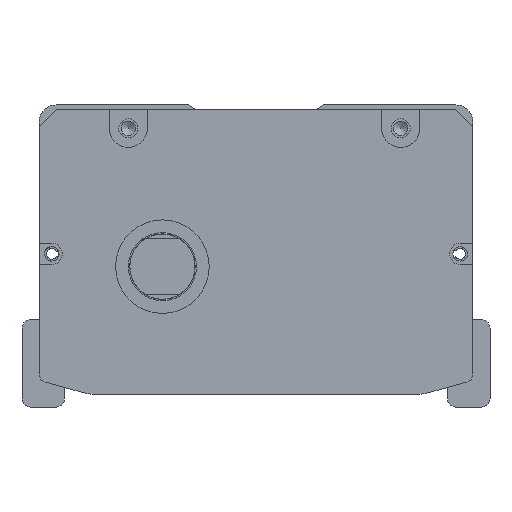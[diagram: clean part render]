
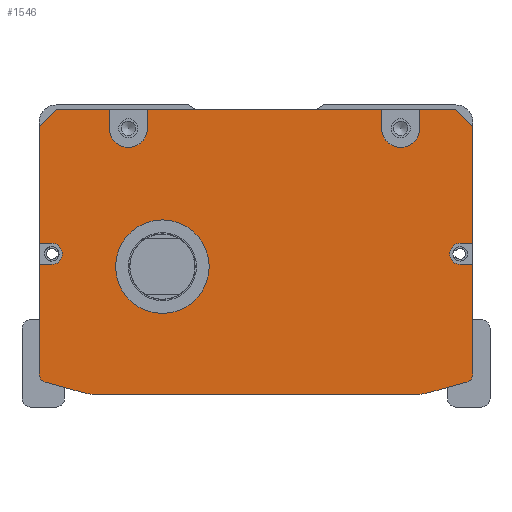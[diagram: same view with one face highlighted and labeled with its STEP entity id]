
A CAD part, front view. The second image highlights one B-rep face of the part: STEP entity #1546.
In plain terms, the highlighted planar face has unit normal (0, -1, 0).
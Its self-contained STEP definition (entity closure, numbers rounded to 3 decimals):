
#942=FACE_BOUND('',#2956,.T.);
#943=FACE_BOUND('',#2957,.T.);
#1546=ADVANCED_FACE('',(#942,#943),#2127,.F.);
#2127=PLANE('',#11599);
#2956=EDGE_LOOP('',(#5245,#5246,#5247,#5248,#5249,#5250,#5251,#5252,#5253,
#5254,#5255,#5256,#5257,#5258,#5259,#5260,#5261,#5262,#5263,#5264,#5265,
#5266,#5267,#5268,#5269,#5270,#5271,#5272));
#2957=EDGE_LOOP('',(#5273));
#3863=CIRCLE('',#11590,4.5);
#3864=CIRCLE('',#11591,4.5);
#3865=CIRCLE('',#11592,2.5);
#3866=CIRCLE('',#11593,2.);
#3867=CIRCLE('',#11594,10.);
#3868=CIRCLE('',#11595,10.);
#3869=CIRCLE('',#11596,2.);
#3870=CIRCLE('',#11597,2.5);
#3871=CIRCLE('',#11598,11.);
#5245=ORIENTED_EDGE('',*,*,#8494,.T.);
#5246=ORIENTED_EDGE('',*,*,#8922,.T.);
#5247=ORIENTED_EDGE('',*,*,#8923,.T.);
#5248=ORIENTED_EDGE('',*,*,#8924,.F.);
#5249=ORIENTED_EDGE('',*,*,#8925,.T.);
#5250=ORIENTED_EDGE('',*,*,#8926,.F.);
#5251=ORIENTED_EDGE('',*,*,#8927,.T.);
#5252=ORIENTED_EDGE('',*,*,#8928,.F.);
#5253=ORIENTED_EDGE('',*,*,#8929,.T.);
#5254=ORIENTED_EDGE('',*,*,#8930,.F.);
#5255=ORIENTED_EDGE('',*,*,#8931,.T.);
#5256=ORIENTED_EDGE('',*,*,#8932,.T.);
#5257=ORIENTED_EDGE('',*,*,#8526,.T.);
#5258=ORIENTED_EDGE('',*,*,#8933,.T.);
#5259=ORIENTED_EDGE('',*,*,#8934,.T.);
#5260=ORIENTED_EDGE('',*,*,#8935,.T.);
#5261=ORIENTED_EDGE('',*,*,#8522,.T.);
#5262=ORIENTED_EDGE('',*,*,#8936,.T.);
#5263=ORIENTED_EDGE('',*,*,#8937,.T.);
#5264=ORIENTED_EDGE('',*,*,#8938,.T.);
#5265=ORIENTED_EDGE('',*,*,#8939,.T.);
#5266=ORIENTED_EDGE('',*,*,#8940,.T.);
#5267=ORIENTED_EDGE('',*,*,#8941,.T.);
#5268=ORIENTED_EDGE('',*,*,#8942,.T.);
#5269=ORIENTED_EDGE('',*,*,#8498,.T.);
#5270=ORIENTED_EDGE('',*,*,#8943,.T.);
#5271=ORIENTED_EDGE('',*,*,#8944,.T.);
#5272=ORIENTED_EDGE('',*,*,#8945,.T.);
#5273=ORIENTED_EDGE('',*,*,#8946,.T.);
#7398=VERTEX_POINT('',#15914);
#7399=VERTEX_POINT('',#15916);
#7402=VERTEX_POINT('',#15922);
#7403=VERTEX_POINT('',#15924);
#7424=VERTEX_POINT('',#15969);
#7425=VERTEX_POINT('',#15971);
#7428=VERTEX_POINT('',#15977);
#7429=VERTEX_POINT('',#15979);
#7700=VERTEX_POINT('',#16794);
#7701=VERTEX_POINT('',#16796);
#7702=VERTEX_POINT('',#16798);
#7703=VERTEX_POINT('',#16800);
#7704=VERTEX_POINT('',#16802);
#7705=VERTEX_POINT('',#16804);
#7706=VERTEX_POINT('',#16806);
#7707=VERTEX_POINT('',#16808);
#7708=VERTEX_POINT('',#16810);
#7709=VERTEX_POINT('',#16812);
#7710=VERTEX_POINT('',#16815);
#7711=VERTEX_POINT('',#16817);
#7712=VERTEX_POINT('',#16820);
#7713=VERTEX_POINT('',#16822);
#7714=VERTEX_POINT('',#16824);
#7715=VERTEX_POINT('',#16826);
#7716=VERTEX_POINT('',#16828);
#7717=VERTEX_POINT('',#16830);
#7718=VERTEX_POINT('',#16833);
#7719=VERTEX_POINT('',#16835);
#7720=VERTEX_POINT('',#16838);
#8494=EDGE_CURVE('',#7399,#7398,#9933,.T.);
#8498=EDGE_CURVE('',#7403,#7402,#9937,.T.);
#8522=EDGE_CURVE('',#7425,#7424,#9961,.T.);
#8526=EDGE_CURVE('',#7429,#7428,#9965,.T.);
#8922=EDGE_CURVE('',#7398,#7700,#10206,.T.);
#8923=EDGE_CURVE('',#7700,#7701,#10207,.T.);
#8924=EDGE_CURVE('',#7702,#7701,#10208,.T.);
#8925=EDGE_CURVE('',#7702,#7703,#3863,.T.);
#8926=EDGE_CURVE('',#7704,#7703,#10209,.T.);
#8927=EDGE_CURVE('',#7704,#7705,#10210,.T.);
#8928=EDGE_CURVE('',#7706,#7705,#10211,.T.);
#8929=EDGE_CURVE('',#7706,#7707,#3864,.T.);
#8930=EDGE_CURVE('',#7708,#7707,#10212,.T.);
#8931=EDGE_CURVE('',#7708,#7709,#10213,.T.);
#8932=EDGE_CURVE('',#7709,#7429,#10214,.T.);
#8933=EDGE_CURVE('',#7428,#7710,#10215,.T.);
#8934=EDGE_CURVE('',#7710,#7711,#3865,.T.);
#8935=EDGE_CURVE('',#7711,#7425,#10216,.T.);
#8936=EDGE_CURVE('',#7424,#7712,#3866,.T.);
#8937=EDGE_CURVE('',#7712,#7713,#10217,.T.);
#8938=EDGE_CURVE('',#7713,#7714,#3867,.T.);
#8939=EDGE_CURVE('',#7714,#7715,#10218,.T.);
#8940=EDGE_CURVE('',#7715,#7716,#3868,.T.);
#8941=EDGE_CURVE('',#7716,#7717,#10219,.T.);
#8942=EDGE_CURVE('',#7717,#7403,#3869,.T.);
#8943=EDGE_CURVE('',#7402,#7718,#10220,.T.);
#8944=EDGE_CURVE('',#7718,#7719,#3870,.T.);
#8945=EDGE_CURVE('',#7719,#7399,#10221,.T.);
#8946=EDGE_CURVE('',#7720,#7720,#3871,.T.);
#9933=LINE('',#15915,#10590);
#9937=LINE('',#15923,#10594);
#9961=LINE('',#15970,#10618);
#9965=LINE('',#15978,#10622);
#10206=LINE('',#16793,#10863);
#10207=LINE('',#16795,#10864);
#10208=LINE('',#16797,#10865);
#10209=LINE('',#16801,#10866);
#10210=LINE('',#16803,#10867);
#10211=LINE('',#16805,#10868);
#10212=LINE('',#16809,#10869);
#10213=LINE('',#16811,#10870);
#10214=LINE('',#16813,#10871);
#10215=LINE('',#16814,#10872);
#10216=LINE('',#16818,#10873);
#10217=LINE('',#16821,#10874);
#10218=LINE('',#16825,#10875);
#10219=LINE('',#16829,#10876);
#10220=LINE('',#16832,#10877);
#10221=LINE('',#16836,#10878);
#10590=VECTOR('',#12706,1.);
#10594=VECTOR('',#12710,1.);
#10618=VECTOR('',#12736,1.);
#10622=VECTOR('',#12740,1.);
#10863=VECTOR('',#13587,1.);
#10864=VECTOR('',#13588,1.);
#10865=VECTOR('',#13589,1.);
#10866=VECTOR('',#13592,1.);
#10867=VECTOR('',#13593,1.);
#10868=VECTOR('',#13594,1.);
#10869=VECTOR('',#13597,1.);
#10870=VECTOR('',#13598,1.);
#10871=VECTOR('',#13599,1.);
#10872=VECTOR('',#13600,1.);
#10873=VECTOR('',#13603,1.);
#10874=VECTOR('',#13606,1.);
#10875=VECTOR('',#13609,1.);
#10876=VECTOR('',#13612,1.);
#10877=VECTOR('',#13615,1.);
#10878=VECTOR('',#13618,1.);
#11590=AXIS2_PLACEMENT_3D('',#16799,#13590,#13591);
#11591=AXIS2_PLACEMENT_3D('',#16807,#13595,#13596);
#11592=AXIS2_PLACEMENT_3D('',#16816,#13601,#13602);
#11593=AXIS2_PLACEMENT_3D('',#16819,#13604,#13605);
#11594=AXIS2_PLACEMENT_3D('',#16823,#13607,#13608);
#11595=AXIS2_PLACEMENT_3D('',#16827,#13610,#13611);
#11596=AXIS2_PLACEMENT_3D('',#16831,#13613,#13614);
#11597=AXIS2_PLACEMENT_3D('',#16834,#13616,#13617);
#11598=AXIS2_PLACEMENT_3D('',#16837,#13619,#13620);
#11599=AXIS2_PLACEMENT_3D('',#16839,#13621,#13622);
#12706=DIRECTION('',(0.,0.,1.));
#12710=DIRECTION('',(0.,0.,1.));
#12736=DIRECTION('',(0.,0.,-1.));
#12740=DIRECTION('',(0.,0.,-1.));
#13587=DIRECTION('',(-0.707,0.,0.707));
#13588=DIRECTION('',(-1.,0.,0.));
#13589=DIRECTION('',(0.,0.,1.));
#13590=DIRECTION('',(0.,1.,0.));
#13591=DIRECTION('',(0.,0.,1.));
#13592=DIRECTION('',(0.,0.,-1.));
#13593=DIRECTION('',(-1.,0.,0.));
#13594=DIRECTION('',(0.,0.,1.));
#13595=DIRECTION('',(0.,1.,0.));
#13596=DIRECTION('',(0.,0.,1.));
#13597=DIRECTION('',(0.,0.,-1.));
#13598=DIRECTION('',(-1.,0.,0.));
#13599=DIRECTION('',(-0.707,0.,-0.707));
#13600=DIRECTION('',(1.,0.,0.));
#13601=DIRECTION('',(0.,1.,0.));
#13602=DIRECTION('',(0.,0.,1.));
#13603=DIRECTION('',(-1.,0.,0.));
#13604=DIRECTION('',(0.,-1.,0.));
#13605=DIRECTION('',(0.,0.,1.));
#13606=DIRECTION('',(0.963,0.,-0.269));
#13607=DIRECTION('',(0.,-1.,0.));
#13608=DIRECTION('',(0.,0.,1.));
#13609=DIRECTION('',(1.,0.,0.));
#13610=DIRECTION('',(0.,-1.,0.));
#13611=DIRECTION('',(0.,0.,-1.));
#13612=DIRECTION('',(0.963,0.,0.269));
#13613=DIRECTION('',(0.,-1.,0.));
#13614=DIRECTION('',(0.,0.,-1.));
#13615=DIRECTION('',(-1.,0.,0.));
#13616=DIRECTION('',(0.,1.,0.));
#13617=DIRECTION('',(0.,0.,1.));
#13618=DIRECTION('',(1.,0.,0.));
#13619=DIRECTION('',(0.,1.,0.));
#13620=DIRECTION('',(0.,0.,1.));
#13621=DIRECTION('',(0.,1.,0.));
#13622=DIRECTION('',(1.,0.,0.));
#15914=CARTESIAN_POINT('',(47.808,-7.5,-5.));
#15915=CARTESIAN_POINT('',(47.808,-7.5,-1.));
#15916=CARTESIAN_POINT('',(47.808,-7.5,-32.5));
#15922=CARTESIAN_POINT('',(47.808,-7.5,-37.5));
#15923=CARTESIAN_POINT('',(47.808,-7.5,-1.));
#15924=CARTESIAN_POINT('',(47.808,-7.5,-63.212));
#15969=CARTESIAN_POINT('',(-54.192,-7.5,-63.212));
#15970=CARTESIAN_POINT('',(-54.192,-7.5,-62.));
#15971=CARTESIAN_POINT('',(-54.192,-7.5,-37.5));
#15977=CARTESIAN_POINT('',(-54.192,-7.5,-32.5));
#15978=CARTESIAN_POINT('',(-54.192,-7.5,-62.));
#15979=CARTESIAN_POINT('',(-54.192,-7.5,-5.));
#16793=CARTESIAN_POINT('',(43.808,-7.5,-1.));
#16794=CARTESIAN_POINT('',(43.808,-7.5,-1.));
#16795=CARTESIAN_POINT('',(-3.192,-7.5,-1.));
#16796=CARTESIAN_POINT('',(35.308,-7.5,-1.));
#16797=CARTESIAN_POINT('',(35.308,-7.5,-1.));
#16798=CARTESIAN_POINT('',(35.308,-7.5,-5.5));
#16799=CARTESIAN_POINT('',(30.808,-7.5,-5.5));
#16800=CARTESIAN_POINT('',(26.308,-7.5,-5.5));
#16801=CARTESIAN_POINT('',(26.308,-7.5,-1.));
#16802=CARTESIAN_POINT('',(26.308,-7.5,-1.));
#16803=CARTESIAN_POINT('',(-54.192,-7.5,-1.));
#16804=CARTESIAN_POINT('',(-28.692,-7.5,-1.));
#16805=CARTESIAN_POINT('',(-28.692,-7.5,-3.5));
#16806=CARTESIAN_POINT('',(-28.692,-7.5,-5.5));
#16807=CARTESIAN_POINT('',(-33.192,-7.5,-5.5));
#16808=CARTESIAN_POINT('',(-37.692,-7.5,-5.5));
#16809=CARTESIAN_POINT('',(-37.692,-7.5,-1.));
#16810=CARTESIAN_POINT('',(-37.692,-7.5,-1.));
#16811=CARTESIAN_POINT('',(-54.192,-7.5,-1.));
#16812=CARTESIAN_POINT('',(-50.192,-7.5,-1.));
#16813=CARTESIAN_POINT('',(-54.192,-7.5,-5.));
#16814=CARTESIAN_POINT('',(-3.192,-7.5,-32.5));
#16815=CARTESIAN_POINT('',(-51.192,-7.5,-32.5));
#16816=CARTESIAN_POINT('',(-51.192,-7.5,-35.));
#16817=CARTESIAN_POINT('',(-51.192,-7.5,-37.5));
#16818=CARTESIAN_POINT('',(-3.192,-7.5,-37.5));
#16819=CARTESIAN_POINT('',(-52.192,-7.5,-63.212));
#16820=CARTESIAN_POINT('',(-52.731,-7.5,-65.138));
#16821=CARTESIAN_POINT('',(-55.807,-7.5,-64.279));
#16822=CARTESIAN_POINT('',(-43.809,-7.5,-67.631));
#16823=CARTESIAN_POINT('',(-41.118,-7.5,-58.));
#16824=CARTESIAN_POINT('',(-41.118,-7.5,-68.));
#16825=CARTESIAN_POINT('',(-54.692,-7.5,-68.));
#16826=CARTESIAN_POINT('',(34.733,-7.5,-68.));
#16827=CARTESIAN_POINT('',(34.733,-7.5,-58.));
#16828=CARTESIAN_POINT('',(37.424,-7.5,-67.631));
#16829=CARTESIAN_POINT('',(49.422,-7.5,-64.279));
#16830=CARTESIAN_POINT('',(46.346,-7.5,-65.138));
#16831=CARTESIAN_POINT('',(45.808,-7.5,-63.212));
#16832=CARTESIAN_POINT('',(-3.192,-7.5,-37.5));
#16833=CARTESIAN_POINT('',(44.808,-7.5,-37.5));
#16834=CARTESIAN_POINT('',(44.808,-7.5,-35.));
#16835=CARTESIAN_POINT('',(44.808,-7.5,-32.5));
#16836=CARTESIAN_POINT('',(-3.192,-7.5,-32.5));
#16837=CARTESIAN_POINT('',(-25.192,-7.5,-38.));
#16838=CARTESIAN_POINT('',(-25.192,-7.5,-27.));
#16839=CARTESIAN_POINT('',(-3.192,-7.5,-1.));
